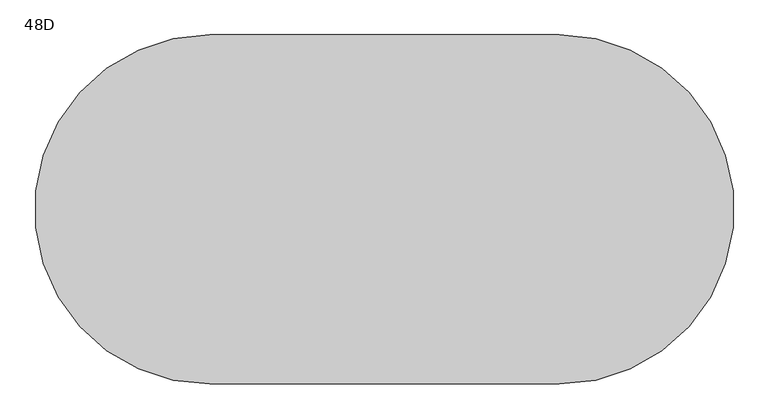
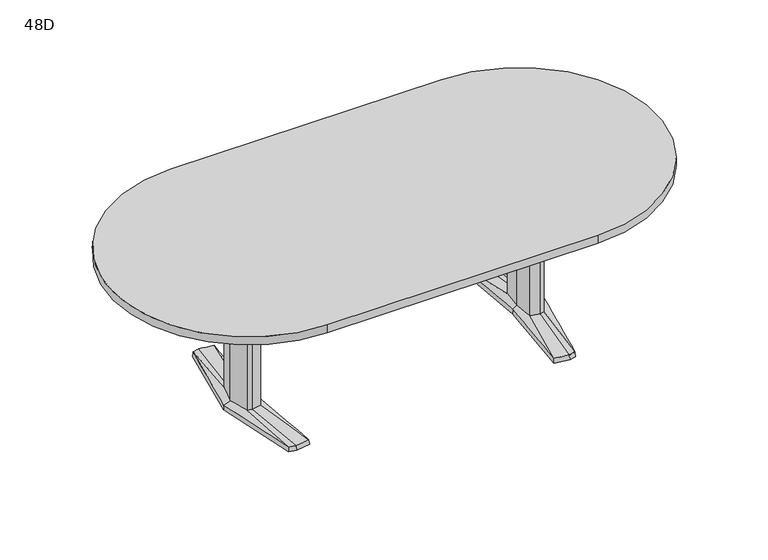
"""IFC4 building model written with IfcOpenShell, lengths in millimetres: furniture geometry, Coalesse_AM_Table_Conference_ETable2_Racetrack_96in_AluminiumBase : 48D."""

import ifcopenshell
import ifcopenshell.guid

model = None  # the IFC model being written
_history = None  # IfcOwnerHistory: only IFC2X3 demands one
_inside = {}  # id of a spatial element -> (the spatial element, [elements in it])
_under = {}  # id of a project, library or spatial element -> (it, [spatial elements below it])
_declared = {}  # id of a project -> (the project, [libraries it declares])
_typed = {}  # id of a type object -> (the type object, [elements of that type])
_made_of = {}  # id of a material, layer set ... -> (it, [elements and type objects made of it])


def new_model(schema):
    """Start an empty IFC model of exactly this schema.

    Asked for "IFC4X3", IfcOpenShell would pick the latest addendum, in which some entities
    have other attributes; the version numbers below select the first issue.
    IFC2X3 requires an IfcOwnerHistory on every rooted entity: one is made here for all.
    """
    global model, _history
    if schema == "IFC4X3":
        model = ifcopenshell.file(schema_version=(4, 3, 0, 0))
    else:
        model = ifcopenshell.file(schema=schema)
    _inside.clear()
    _under.clear()
    _declared.clear()
    _typed.clear()
    _made_of.clear()
    _history = None
    if model.schema == "IFC2X3":
        org = make("IfcOrganization", Name="unknown")
        user = make(
            "IfcPersonAndOrganization",
            ThePerson=make("IfcPerson", FamilyName="unknown"),
            TheOrganization=org,
        )
        app = make(
            "IfcApplication",
            ApplicationDeveloper=org,
            Version="unknown",
            ApplicationFullName="unknown",
            ApplicationIdentifier="unknown",
        )
        _history = make(
            "IfcOwnerHistory",
            OwningUser=user,
            OwningApplication=app,
            ChangeAction="ADDED",
            CreationDate=0,
        )
    return model


def make(cls, **values):
    """One entity of the class cls with the attributes given. An attribute that is None is left unset."""
    return model.create_entity(
        cls, **{name: value for name, value in values.items() if value is not None}
    )


def rooted(cls, **values):
    """An entity with a GlobalId (a new one), such as an element, a storey or a relation."""
    return make(cls, GlobalId=ifcopenshell.guid.new(), OwnerHistory=_history, **values)


def si_unit(unit_type, name, prefix=None):
    """IfcSIUnit, for example si_unit("LENGTHUNIT", "METRE", prefix="MILLI")."""
    return make("IfcSIUnit", UnitType=unit_type, Prefix=prefix, Name=name)


def assignment(units):
    """IfcUnitAssignment: the units of a project."""
    return None if units is None else make("IfcUnitAssignment", Units=units)


def point(xyz):
    """IfcCartesianPoint."""
    return None if xyz is None else make("IfcCartesianPoint", Coordinates=xyz)


def direction(xyz):
    """IfcDirection."""
    return None if xyz is None else make("IfcDirection", DirectionRatios=xyz)


def frame(location, z_axis=None, x_axis=None):
    """IfcAxis2Placement3D, a coordinate frame: its origin and axes. An axis left out is left unset."""
    return make(
        "IfcAxis2Placement3D",
        Location=point(location),
        Axis=direction(z_axis),
        RefDirection=direction(x_axis),
    )


def frame_2d(location, x_axis=None):
    """IfcAxis2Placement2D, a coordinate frame in the plane: its origin and x axis."""
    return make(
        "IfcAxis2Placement2D", Location=point(location), RefDirection=direction(x_axis)
    )


def origin():
    """The frame at (0, 0, 0) with its axes left unset."""
    return frame((0.0, 0.0, 0.0))


def place(relative_to, where):
    """IfcLocalPlacement: puts the frame where relative to a parent placement (None: the world)."""
    return make(
        "IfcLocalPlacement", PlacementRelTo=relative_to, RelativePlacement=where
    )


def context(
    kind, dimensions, precision=None, world=None, true_north=None, identifier=None
):
    """IfcGeometricRepresentationContext, for example the 3D "Model" context."""
    return make(
        "IfcGeometricRepresentationContext",
        ContextIdentifier=identifier,
        ContextType=kind,
        CoordinateSpaceDimension=dimensions,
        Precision=precision,
        WorldCoordinateSystem=world,
        TrueNorth=true_north,
    )


def project(units=None, contexts=None):
    """IfcProject with its units and contexts."""
    return rooted(
        "IfcProject",
        Name="project",
        RepresentationContexts=contexts,
        UnitsInContext=assignment(units),
    )


def spatial(cls, under=None, at=None, **own):
    """A site, building, storey or space (cls), placed at a placement, below another one or the project."""
    s = rooted(cls, ObjectPlacement=at, **own)
    if under is not None:
        _under.setdefault(under.id(), (under, []))[1].append(s)
    return s


def polyline(points):
    """IfcPolyline through the points."""
    return make("IfcPolyline", Points=[point(p) for p in points])


def circle_curve(where, radius):
    """IfcCircle in the frame where."""
    return make("IfcCircle", Position=where, Radius=radius)


def trimmed(basis, trim1, trim2, sense, master):
    """IfcTrimmedCurve: the piece of a basis curve between two trims."""
    return make(
        "IfcTrimmedCurve",
        BasisCurve=basis,
        Trim1=trim1,
        Trim2=trim2,
        SenseAgreement=sense,
        MasterRepresentation=master,
    )


def segment(curve, same_sense, transition):
    """IfcCompositeCurveSegment."""
    return make(
        "IfcCompositeCurveSegment",
        Transition=transition,
        SameSense=same_sense,
        ParentCurve=curve,
    )


def composite_curve(segments, self_intersect=None):
    """IfcCompositeCurve: segments joined end to end."""
    return make("IfcCompositeCurve", Segments=segments, SelfIntersect=self_intersect)


def outline(outer, holes=None, kind="AREA"):
    """IfcArbitraryClosedProfileDef: a profile drawn as a closed curve; with holes, ...WithVoids."""
    if holes is None:
        return make("IfcArbitraryClosedProfileDef", ProfileType=kind, OuterCurve=outer)
    return make(
        "IfcArbitraryProfileDefWithVoids",
        ProfileType=kind,
        OuterCurve=outer,
        InnerCurves=holes,
    )


def extrude(swept, where, along, depth):
    """IfcExtrudedAreaSolid: the profile swept, set in the frame where, extruded along a direction by depth."""
    return make(
        "IfcExtrudedAreaSolid",
        SweptArea=swept,
        Position=where,
        ExtrudedDirection=direction(along),
        Depth=depth,
    )


def shape(context_of_items, identifier, shape_type, items):
    """IfcShapeRepresentation: the items that make up one representation, for example the "Body"."""
    return make(
        "IfcShapeRepresentation",
        ContextOfItems=context_of_items,
        RepresentationIdentifier=identifier,
        RepresentationType=shape_type,
        Items=items,
    )


def source(mapping_origin, context_of_items, identifier, shape_type, items):
    """IfcRepresentationMap: a shape defined once, which mapped items show again and again."""
    return make(
        "IfcRepresentationMap",
        MappingOrigin=mapping_origin,
        MappedRepresentation=shape(context_of_items, identifier, shape_type, items),
    )


def transform(
    local_origin,
    x_axis=None,
    y_axis=None,
    z_axis=None,
    scale=None,
    scale2=None,
    scale3=None,
    uniform=True,
):
    """IfcCartesianTransformationOperator3D, or its non-uniform kind. x_axis, y_axis, z_axis: its Axis1, 2, 3."""
    if uniform:
        return make(
            "IfcCartesianTransformationOperator3D",
            Axis1=direction(x_axis),
            Axis2=direction(y_axis),
            LocalOrigin=point(local_origin),
            Scale=scale,
            Axis3=direction(z_axis),
        )
    return make(
        "IfcCartesianTransformationOperator3DnonUniform",
        Axis1=direction(x_axis),
        Axis2=direction(y_axis),
        LocalOrigin=point(local_origin),
        Scale=scale,
        Axis3=direction(z_axis),
        Scale2=scale2,
        Scale3=scale3,
    )


def mapped(mapping_source, mapping_target):
    """IfcMappedItem: shows the shape of a source again, moved by a transform."""
    return make(
        "IfcMappedItem", MappingSource=mapping_source, MappingTarget=mapping_target
    )


def made_of(thing, what):
    """Note that an element or type object is made of a material, layer set ...; save() writes the relation."""
    if what is not None:
        _made_of.setdefault(what.id(), (what, []))[1].append(thing)
    return thing


def element(
    cls,
    number,
    at=None,
    inside=None,
    cuts=None,
    type_object=None,
    material=None,
    context=None,
    identifier="Body",
    shape_type=None,
    held_by="IfcProductDefinitionShape",
    body=None,
    shapes=None,
    **own,
):
    """One element of the class cls, such as IfcWall. Its Tag is "e" and its number.

    at: its placement. inside: the storey or other place that contains it. cuts: it is an
    opening in that element (IfcRelVoidsElement). A single representation is given by context,
    identifier, shape_type and body (its items); several are given by shapes. held_by: the class
    of the entity that holds the representations. save() writes the other relations.
    """
    e = rooted(cls, Tag="e%d" % number, ObjectPlacement=at, **own)
    if body is not None:
        shapes = [shape(context, identifier, shape_type, body)]
    if shapes is not None:
        e.Representation = make(held_by, Representations=shapes)
    if inside is not None:
        _inside.setdefault(inside.id(), (inside, []))[1].append(e)
    if cuts is not None:
        rooted(
            "IfcRelVoidsElement", RelatingBuildingElement=cuts, RelatedOpeningElement=e
        )
    if type_object is not None:
        _typed.setdefault(type_object.id(), (type_object, []))[1].append(e)
    return made_of(e, material)


def aggregate(whole, parts):
    """IfcRelAggregates: a whole, such as a stair, and the parts it consists of."""
    return rooted("IfcRelAggregates", RelatingObject=whole, RelatedObjects=parts)


def save(model, path):
    """Write the relations noted so far, then the file.

    IfcRelAggregates (storeys below a building ...), IfcRelContainedInSpatialStructure (elements
    in a storey), IfcRelDefinesByType, IfcRelAssociatesMaterial and IfcRelDeclares: one each for
    every whole, place, type object, material and project.
    """
    for whole, parts in _under.values():
        aggregate(whole, parts)
    for where, things in _inside.values():
        rooted(
            "IfcRelContainedInSpatialStructure",
            RelatedElements=things,
            RelatingStructure=where,
        )
    for kind, things in _typed.values():
        rooted("IfcRelDefinesByType", RelatedObjects=things, RelatingType=kind)
    for what, things in _made_of.values():
        rooted("IfcRelAssociatesMaterial", RelatedObjects=things, RelatingMaterial=what)
    for by, libraries in _declared.values():
        rooted("IfcRelDeclares", RelatingContext=by, RelatedDefinitions=libraries)
    model.write(path)


def plane_surface(at):
    """IfcPlane: the flat surface through the origin of the frame at, square to its z axis."""
    return make("IfcPlane", Position=at)


def spline_surface(u_degree, v_degree, points, u_multiplicities, v_multiplicities, u_knots, v_knots, weights=None):
    """IfcBSplineSurfaceWithKnots; with weights, IfcRationalBSplineSurfaceWithKnots. points: one row for each step in u."""
    own = dict(
        UDegree=u_degree,
        VDegree=v_degree,
        ControlPointsList=[[point(p) for p in row] for row in points],
        SurfaceForm="UNSPECIFIED",
        UClosed=False,
        VClosed=False,
        SelfIntersect=False,
        UMultiplicities=u_multiplicities,
        VMultiplicities=v_multiplicities,
        UKnots=u_knots,
        VKnots=v_knots,
        KnotSpec="UNSPECIFIED",
    )
    if weights is None:
        return make("IfcBSplineSurfaceWithKnots", **own)
    return make("IfcRationalBSplineSurfaceWithKnots", WeightsData=weights, **own)


def advanced_brep(points, edges, surfaces, faces):
    """IfcAdvancedBrep: a solid bounded by faces that lie on surfaces and meet in shared edges.

    An edge is (start, end): straight between two places in points (the first is 0);
    or (start, end, curve); or (start, end, curve, False) where it runs against its curve.
    A face is (place in surfaces, loops), or (place, loops, False) where it looks against
    its surface's normal. A loop lists edges by number (the first is 1), with a minus sign
    where the edge is run from its end to its start. The first loop is the outer one.
    """
    corners = [point(p) for p in points]
    vertices = [make("IfcVertexPoint", VertexGeometry=c) for c in corners]
    made = []
    for start, end, *more in edges:
        made.append(
            make(
                "IfcEdgeCurve",
                EdgeStart=vertices[start],
                EdgeEnd=vertices[end],
                EdgeGeometry=more[0] if more else make("IfcPolyline", Points=[corners[start], corners[end]]),
                SameSense=more[1] if len(more) > 1 else True,
            )
        )
    hull = []
    for where, loops, *sense in faces:
        bounds = []
        for j, loop in enumerate(loops):
            ring = [make("IfcOrientedEdge", EdgeElement=made[abs(k) - 1], Orientation=k > 0) for k in loop]
            bounds.append(
                make(
                    "IfcFaceOuterBound" if j == 0 else "IfcFaceBound",
                    Bound=make("IfcEdgeLoop", EdgeList=ring),
                    Orientation=True,
                )
            )
        hull.append(make("IfcAdvancedFace", Bounds=bounds, FaceSurface=surfaces[where], SameSense=sense[0] if sense else True))
    return make("IfcAdvancedBrep", Outer=make("IfcClosedShell", CfsFaces=hull))


def furniture_48d_8a235267(model_context):
    return source(origin(), model_context, "Body", "SolidModel", [
        advanced_brep(
        [(614.8503471, -379.3768856, 25.4), (644.5756636, -371.5332654, 25.4), (668.2327243, -89.293702, 36.5125), (648.9795254, -94.605478, 36.5125), (606.0521001, -87.0529327, 36.5125), (551.7612538, -368.5071562, 25.4), (597.9364207, 0.0, 36.5125), (579.8389754, 0.3970149, 25.4), (606.0521001, 87.0529327, 36.5125), (551.7615002, 368.5172593, 25.4), (648.9795254, 94.605478, 36.5125), (614.8502233, 379.3769183, 25.4), (668.2327243, 89.293702, 36.5125), (644.7535458, 371.4863276, 25.4), (692.1595251, 0.0, 36.5125), (721.4851663, 0.0003516, 25.4), (578.2468742, 0.3968871, 3.175), (550.06875, 369.8367279, 3.175), (614.9213004, 381.0, 3.175), (646.1093245, 372.7704151, 3.175), (723.10625, 0.0, 3.175), (645.9309817, -372.8174744, 3.175), (614.9213004, -381.0, 3.175), (550.06875, -369.8264415, 3.175), (649.5979264, 107.6121478, 3.175), (594.3065451, 97.8843184, 3.175), (585.1810887, 0.0, 3.175), (594.3065451, -97.8843184, 3.175), (649.5979264, -107.6121478, 3.175), (678.6183473, -99.6056872, 3.175), (705.3083085, 0.0, 3.175), (678.6183473, 99.6056872, 3.175), (613.4286812, 346.9152841, 3.175), (557.7811371, 337.3364985, 3.175), (560.1889918, 324.8641942, 3.175), (612.8600644, 333.9306305, 3.175), (648.6725609, 324.4807859, 3.175), (647.5544526, 337.9105158, 3.175), (613.4286812, -346.9152841, 3.175), (647.5544526, -337.9105158, 3.175), (648.6725609, -324.4807859, 3.175), (612.8600644, -333.9306305, 3.175), (560.1889918, -324.8641942, 3.175), (557.7811371, -337.3364985, 3.175), (649.5979264, 107.6121478, 0.0), (678.6183473, 99.6056872, 0.0), (705.3083085, 0.0, 0.0), (678.6183473, -99.6056872, 0.0), (649.5979264, -107.6121478, 0.0), (594.3065451, -97.8843184, 0.0), (585.1810887, 0.0, 0.0), (594.3065451, 97.8843184, 0.0), (613.4286812, 346.9152841, 0.0), (647.5544526, 337.9105158, 0.0), (648.6725609, 324.4807859, 0.0), (612.8600644, 333.9306305, 0.0), (560.1889918, 324.8641942, 0.0), (557.7811371, 337.3364985, 0.0), (613.4286812, -346.9152841, 0.0), (557.7811371, -337.3364985, 0.0), (560.1889918, -324.8641942, 0.0), (612.8600644, -333.9306305, 0.0), (648.6725609, -324.4807859, 0.0), (647.5544526, -337.9105158, 0.0), (668.2327243, 89.293702, 698.5), (648.9795254, 94.605478, 698.5), (606.0521001, 87.0529327, 698.5), (597.9364207, 0.0, 698.5), (606.0521001, -87.0529327, 698.5), (648.9795254, -94.605478, 698.5), (668.2327243, -89.293702, 698.5), (692.1595251, 0.0, 698.5)],
        [
            (0, 1),
            (1, 2),
            (2, 3),
            (3, 0),
            (3, 4),
            (4, 5),
            (5, 0),
            (4, 6),
            (6, 7),
            (7, 5),
            (6, 8),
            (8, 9),
            (9, 7),
            (8, 10),
            (10, 11),
            (11, 9),
            (10, 12),
            (12, 13),
            (13, 11),
            (12, 14),
            (14, 15),
            (15, 13),
            (1, 15),
            (14, 2),
            (16, 17),
            (17, 18),
            (18, 19),
            (19, 20),
            (20, 21),
            (21, 22),
            (22, 23),
            (23, 16),
            (24, 25),
            (25, 26),
            (26, 27),
            (27, 28),
            (28, 29),
            (29, 30),
            (30, 31),
            (31, 24),
            (32, 33),
            (33, 34),
            (34, 35),
            (35, 36),
            (36, 37),
            (37, 32),
            (38, 39),
            (39, 40),
            (40, 41),
            (41, 42),
            (42, 43),
            (43, 38),
            (16, 7),
            (9, 17),
            (11, 18),
            (13, 19),
            (15, 20),
            (1, 21),
            (0, 22),
            (5, 23),
            (44, 45),
            (45, 46),
            (46, 47),
            (47, 48),
            (48, 49),
            (49, 50),
            (50, 51),
            (51, 44),
            (52, 53),
            (53, 54),
            (54, 55),
            (55, 56),
            (56, 57),
            (57, 52),
            (58, 59),
            (59, 60),
            (60, 61),
            (61, 62),
            (62, 63),
            (63, 58),
            (44, 24),
            (31, 45),
            (30, 46),
            (29, 47),
            (28, 48),
            (27, 49),
            (26, 50),
            (25, 51),
            (52, 32),
            (37, 53),
            (36, 54),
            (35, 55),
            (34, 56),
            (33, 57),
            (58, 38),
            (43, 59),
            (42, 60),
            (41, 61),
            (40, 62),
            (39, 63),
            (64, 65),
            (65, 66),
            (66, 67),
            (67, 68),
            (68, 69),
            (69, 70),
            (70, 71),
            (71, 64),
            (71, 14),
            (12, 64),
            (70, 2),
            (69, 3),
            (68, 4),
            (67, 6),
            (66, 8),
            (65, 10),
        ],
        [
            spline_surface(1, 1, [[(644.5756636, -371.5332654, 25.4), (614.8503471, -379.3768856, 25.4)], [(668.2327243, -89.293702, 36.5125), (648.9795254, -94.605478, 36.5125)]], [2, 2], [2, 2], [0.0, 1.0], [0.0, 1.0]),
            spline_surface(1, 1, [[(614.8503471, -379.3768856, 25.4), (551.7612538, -368.5071562, 25.4)], [(648.9795254, -94.605478, 36.5125), (606.0521001, -87.0529327, 36.5125)]], [2, 2], [2, 2], [0.0, 1.0], [0.0, 1.0]),
            spline_surface(1, 1, [[(551.7612538, -368.5071562, 25.4), (579.8389754, 0.3970149, 25.4)], [(606.0521001, -87.0529327, 36.5125), (597.9364207, 0.0, 36.5125)]], [2, 2], [2, 2], [0.0, 1.0], [0.0, 1.0]),
            spline_surface(1, 1, [[(579.8389754, 0.3970149, 25.4), (551.7615002, 368.5172593, 25.4)], [(597.9364207, 0.0, 36.5125), (606.0521001, 87.0529327, 36.5125)]], [2, 2], [2, 2], [0.0, 1.0], [0.0, 1.0]),
            spline_surface(1, 1, [[(551.7615002, 368.5172593, 25.4), (614.8502233, 379.3769183, 25.4)], [(606.0521001, 87.0529327, 36.5125), (648.9795254, 94.605478, 36.5125)]], [2, 2], [2, 2], [0.0, 1.0], [0.0, 1.0]),
            spline_surface(1, 1, [[(614.8502233, 379.3769183, 25.4), (644.7535458, 371.4863276, 25.4)], [(648.9795254, 94.605478, 36.5125), (668.2327243, 89.293702, 36.5125)]], [2, 2], [2, 2], [0.0, 1.0], [0.0, 1.0]),
            spline_surface(1, 1, [[(644.7535458, 371.4863276, 25.4), (721.4851663, 0.0003516, 25.4)], [(668.2327243, 89.293702, 36.5125), (692.1595251, 0.0, 36.5125)]], [2, 2], [2, 2], [0.0, 1.0], [0.0, 1.0]),
            spline_surface(1, 1, [[(721.4851663, 0.0003516, 25.4), (644.5756636, -371.5332654, 25.4)], [(692.1595251, 0.0, 36.5125), (668.2327243, -89.293702, 36.5125)]], [2, 2], [2, 2], [0.0, 1.0], [0.0, 1.0]),
            plane_surface(frame((615.4216914, 0.0450143, 3.175), z_axis=(0.0, 0.0, -1.0), x_axis=(-0.9669048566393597, -0.2551372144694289, 0.0))),
            plane_surface(frame((564.1578121, 185.1168075, 3.175), z_axis=(-0.9945699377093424, -0.07585840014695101, 0.0712470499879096), x_axis=(-0.07605167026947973, 0.9971038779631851, 0.0))),
            plane_surface(frame((582.4950252, 375.418364, 3.175), z_axis=(-0.1692071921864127, 0.9830019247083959, 0.07124704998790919), x_axis=(0.985506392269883, 0.16963829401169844, 0.0))),
            plane_surface(frame((630.5153124, 376.8852076, 3.175), z_axis=(0.2544888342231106, 0.9644476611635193, 0.07124704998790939), x_axis=(0.9669048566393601, -0.25513721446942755, 0.0))),
            plane_surface(frame((684.6077872, 186.3852076, 3.175), z_axis=(0.9768383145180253, 0.2017690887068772, 0.07124704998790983), x_axis=(0.20228315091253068, -0.9793270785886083, 0.0))),
            plane_surface(frame((684.5186158, -186.4087372, 3.175), z_axis=(0.9767507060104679, -0.20219276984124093, 0.07124704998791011), x_axis=(-0.2027079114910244, -0.9792392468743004, 0.0))),
            plane_surface(frame((630.426141, -376.9087372, 3.175), z_axis=(0.2544888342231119, -0.9644476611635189, 0.0712470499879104), x_axis=(-0.9669048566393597, -0.2551372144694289, 0.0))),
            plane_surface(frame((582.4950252, -375.4132207, 3.175), z_axis=(-0.16935861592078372, -0.982975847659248, 0.07124704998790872), x_axis=(-0.9854802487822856, 0.16979010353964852, 0.0))),
            plane_surface(frame((564.1578121, -184.7147772, 3.175), z_axis=(-0.9945820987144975, 0.07569878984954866, 0.07124704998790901), x_axis=(0.07589165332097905, 0.9971160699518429, 0.0))),
            plane_surface(frame((652.3571479, 106.8509046, 0.0), z_axis=(0.0, 0.0, -1.0000000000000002), x_axis=(-0.9639855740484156, 0.26595453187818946, 0.0))),
            plane_surface(frame((649.5979264, 107.6121478, 3.175), z_axis=(0.26595453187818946, 0.9639855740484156, 0.0), x_axis=(0.0, 0.0, -1.0))),
            plane_surface(frame((678.6183473, 99.6056872, 3.175), z_axis=(0.9659241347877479, 0.2588253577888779, 0.0), x_axis=(0.0, 0.0, -1.0))),
            plane_surface(frame((705.3083085, 0.0, 3.175), z_axis=(0.9659241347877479, -0.2588253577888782, 0.0), x_axis=(0.0, 0.0, -1.0))),
            plane_surface(frame((678.6183473, -99.6056872, 3.175), z_axis=(0.26595453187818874, -0.9639855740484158, 0.0), x_axis=(0.0, 0.0, -1.0))),
            plane_surface(frame((649.5979264, -107.6121478, 3.175), z_axis=(-0.17327617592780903, -0.9848732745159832, 0.0), x_axis=(0.0, 0.0, -1.0))),
            plane_surface(frame((594.3065451, -97.8843184, 3.175), z_axis=(-0.9956824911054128, -0.0928244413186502, 0.0), x_axis=(0.0, 0.0, -1.0))),
            plane_surface(frame((585.1810887, 0.0, 3.175), z_axis=(-0.9956824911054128, 0.09282444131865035, 0.0), x_axis=(0.0, 0.0, -1.0))),
            plane_surface(frame((594.3065451, 97.8843184, 3.175), z_axis=(-0.17327617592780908, 0.984873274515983, 0.0), x_axis=(0.0, 0.0, -1.0))),
            plane_surface(frame((613.4286812, 346.9152841, 3.175), z_axis=(0.25513721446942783, 0.9669048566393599, 0.0), x_axis=(0.0, 0.0, -1.0))),
            plane_surface(frame((647.5544526, 337.9105158, 3.175), z_axis=(0.9965521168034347, 0.0829691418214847, 0.0), x_axis=(0.0, 0.0, -1.0))),
            plane_surface(frame((648.6725609, 324.4807859, 3.175), z_axis=(-0.25513721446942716, -0.9669048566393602, 0.0), x_axis=(0.0, 0.0, -1.0))),
            plane_surface(frame((612.8600644, 333.9306305, 3.175), z_axis=(0.16963829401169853, -0.985506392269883, 0.0), x_axis=(0.0, 0.0, -1.0))),
            plane_surface(frame((560.1889918, 324.8641942, 3.175), z_axis=(-0.9818699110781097, -0.18955600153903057, 0.0), x_axis=(0.0, 0.0, -1.0))),
            plane_surface(frame((557.7811371, 337.3364985, 3.175), z_axis=(-0.16963829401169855, 0.9855063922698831, 0.0), x_axis=(0.0, 0.0, -1.0))),
            plane_surface(frame((613.4286812, -346.9152841, 3.175), z_axis=(-0.1696382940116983, -0.9855063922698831, 0.0), x_axis=(0.0, 0.0, -1.0))),
            plane_surface(frame((557.7811371, -337.3364985, 3.175), z_axis=(-0.9818699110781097, 0.18955600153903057, 0.0), x_axis=(0.0, 0.0, -1.0))),
            plane_surface(frame((560.1889918, -324.8641942, 3.175), z_axis=(0.16963829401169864, 0.985506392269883, 0.0), x_axis=(0.0, 0.0, -1.0))),
            plane_surface(frame((612.8600644, -333.9306305, 3.175), z_axis=(-0.2551372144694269, 0.9669048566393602, 0.0), x_axis=(0.0, 0.0, -1.0))),
            plane_surface(frame((648.6725609, -324.4807859, 3.175), z_axis=(0.9965521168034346, -0.0829691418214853, 0.0), x_axis=(0.0, 0.0, -1.0))),
            plane_surface(frame((647.5544526, -337.9105158, 3.175), z_axis=(0.2551372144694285, -0.9669048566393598, 0.0), x_axis=(0.0, 0.0, -1.0))),
            plane_surface(frame((692.1595251, 0.0, 698.5), z_axis=(0.0, 0.0, 1.0), x_axis=(0.25882535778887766, -0.965924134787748, 0.0))),
            plane_surface(frame((668.2327243, 89.293702, 698.5), z_axis=(0.965924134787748, 0.25882535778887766, 0.0), x_axis=(0.0, 0.0, -1.0))),
            plane_surface(frame((692.1595251, 0.0, 698.5), z_axis=(0.965924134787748, -0.2588253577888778, 0.0), x_axis=(0.0, 0.0, -1.0))),
            plane_surface(frame((668.2327243, -89.293702, 698.5), z_axis=(0.2659545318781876, -0.963985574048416, 0.0), x_axis=(0.0, 0.0, -1.0))),
            plane_surface(frame((648.9795254, -94.605478, 698.5), z_axis=(-0.1732761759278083, -0.9848732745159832, 0.0), x_axis=(0.0, 0.0, -1.0))),
            plane_surface(frame((606.0521001, -87.0529327, 698.5), z_axis=(-0.9956824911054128, -0.0928244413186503, 0.0), x_axis=(0.0, 0.0, -1.0))),
            plane_surface(frame((597.9364207, 0.0, 698.5), z_axis=(-0.9956824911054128, 0.09282444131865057, 0.0), x_axis=(0.0, 0.0, -1.0))),
            plane_surface(frame((606.0521001, 87.0529327, 698.5), z_axis=(-0.17327617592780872, 0.9848732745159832, 0.0), x_axis=(0.0, 0.0, -1.0))),
            plane_surface(frame((648.9795254, 94.605478, 698.5), z_axis=(0.26595453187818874, 0.9639855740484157, 0.0), x_axis=(0.0, 0.0, -1.0))),
        ],
        [
            (0, [[1, 2, 3, 4]]),
            (1, [[5, 6, 7, -4]]),
            (2, [[8, 9, 10, -6]]),
            (3, [[11, 12, 13, -9]]),
            (4, [[14, 15, 16, -12]]),
            (5, [[17, 18, 19, -15]]),
            (6, [[20, 21, 22, -18]]),
            (7, [[23, -21, 24, -2]]),
            (8, [[25, 26, 27, 28, 29, 30, 31, 32], [33, 34, 35, 36, 37, 38, 39, 40], [41, 42, 43, 44, 45, 46], [47, 48, 49, 50, 51, 52]]),
            (9, [[53, -13, 54, -25]]),
            (10, [[-54, -16, 55, -26]]),
            (11, [[-55, -19, 56, -27]]),
            (12, [[-56, -22, 57, -28]]),
            (13, [[-57, -23, 58, -29]]),
            (14, [[-58, -1, 59, -30]]),
            (15, [[-59, -7, 60, -31]]),
            (16, [[-60, -10, -53, -32]]),
            (17, [[61, 62, 63, 64, 65, 66, 67, 68]]),
            (17, [[69, 70, 71, 72, 73, 74]]),
            (17, [[75, 76, 77, 78, 79, 80]]),
            (18, [[81, -40, 82, -61]]),
            (19, [[-82, -39, 83, -62]]),
            (20, [[-83, -38, 84, -63]]),
            (21, [[-84, -37, 85, -64]]),
            (22, [[-85, -36, 86, -65]]),
            (23, [[-86, -35, 87, -66]]),
            (24, [[-87, -34, 88, -67]]),
            (25, [[-88, -33, -81, -68]]),
            (26, [[89, -46, 90, -69]]),
            (27, [[-90, -45, 91, -70]]),
            (28, [[-91, -44, 92, -71]]),
            (29, [[-92, -43, 93, -72]]),
            (30, [[-93, -42, 94, -73]]),
            (31, [[-94, -41, -89, -74]]),
            (32, [[95, -52, 96, -75]]),
            (33, [[-96, -51, 97, -76]]),
            (34, [[-97, -50, 98, -77]]),
            (35, [[-98, -49, 99, -78]]),
            (36, [[-99, -48, 100, -79]]),
            (37, [[-100, -47, -95, -80]]),
            (38, [[101, 102, 103, 104, 105, 106, 107, 108]]),
            (39, [[109, -20, 110, -108]]),
            (40, [[111, -24, -109, -107]]),
            (41, [[112, -3, -111, -106]]),
            (42, [[113, -5, -112, -105]]),
            (43, [[114, -8, -113, -104]]),
            (44, [[115, -11, -114, -103]]),
            (45, [[116, -14, -115, -102]]),
            (46, [[-110, -17, -116, -101]]),
        ],
    ),
        advanced_brep(
        [(-614.8503471, -379.3768856, 25.4), (-648.9795254, -94.605478, 36.5125), (-668.2327243, -89.293702, 36.5125), (-644.5756636, -371.5332654, 25.4), (-551.7612538, -368.5071562, 25.4), (-606.0521001, -87.0529327, 36.5125), (-579.8389754, 0.3970149, 25.4), (-597.9364207, 0.0, 36.5125), (-551.7615002, 368.5172593, 25.4), (-606.0521001, 87.0529327, 36.5125), (-614.8502233, 379.3769183, 25.4), (-648.9795254, 94.605478, 36.5125), (-644.7535458, 371.4863276, 25.4), (-668.2327243, 89.293702, 36.5125), (-721.4851663, 0.0003516, 25.4), (-692.1595251, 0.0, 36.5125), (-578.2468742, 0.3968871, 3.175), (-550.06875, -369.8264415, 3.175), (-614.9213004, -381.0, 3.175), (-645.9309817, -372.8174744, 3.175), (-723.10625, 0.0, 3.175), (-646.1093245, 372.7704151, 3.175), (-614.9213004, 381.0, 3.175), (-550.06875, 369.8367279, 3.175), (-649.5979264, 107.6121478, 3.175), (-678.6183473, 99.6056872, 3.175), (-705.3083085, 0.0, 3.175), (-678.6183473, -99.6056872, 3.175), (-649.5979264, -107.6121478, 3.175), (-594.3065451, -97.8843184, 3.175), (-585.1810887, 0.0, 3.175), (-594.3065451, 97.8843184, 3.175), (-613.4286812, 346.9152841, 3.175), (-647.5544526, 337.9105158, 3.175), (-648.6725609, 324.4807859, 3.175), (-612.8600644, 333.9306305, 3.175), (-560.1889918, 324.8641942, 3.175), (-557.7811371, 337.3364985, 3.175), (-613.4286812, -346.9152841, 3.175), (-557.7811371, -337.3364985, 3.175), (-560.1889918, -324.8641942, 3.175), (-612.8600644, -333.9306305, 3.175), (-648.6725609, -324.4807859, 3.175), (-647.5544526, -337.9105158, 3.175), (-649.5979264, 107.6121478, 0.0), (-594.3065451, 97.8843184, 0.0), (-585.1810887, 0.0, 0.0), (-594.3065451, -97.8843184, 0.0), (-649.5979264, -107.6121478, 0.0), (-678.6183473, -99.6056872, 0.0), (-705.3083085, 0.0, 0.0), (-678.6183473, 99.6056872, 0.0), (-613.4286812, 346.9152841, 0.0), (-557.7811371, 337.3364985, 0.0), (-560.1889918, 324.8641942, 0.0), (-612.8600644, 333.9306305, 0.0), (-648.6725609, 324.4807859, 0.0), (-647.5544526, 337.9105158, 0.0), (-613.4286812, -346.9152841, 0.0), (-647.5544526, -337.9105158, 0.0), (-648.6725609, -324.4807859, 0.0), (-612.8600644, -333.9306305, 0.0), (-560.1889918, -324.8641942, 0.0), (-557.7811371, -337.3364985, 0.0), (-668.2327243, 89.293702, 698.5), (-692.1595251, 0.0, 698.5), (-668.2327243, -89.293702, 698.5), (-648.9795254, -94.605478, 698.5), (-606.0521001, -87.0529327, 698.5), (-597.9364207, 0.0, 698.5), (-606.0521001, 87.0529327, 698.5), (-648.9795254, 94.605478, 698.5)],
        [
            (0, 1),
            (1, 2),
            (2, 3),
            (3, 0),
            (0, 4),
            (4, 5),
            (5, 1),
            (4, 6),
            (6, 7),
            (7, 5),
            (6, 8),
            (8, 9),
            (9, 7),
            (8, 10),
            (10, 11),
            (11, 9),
            (10, 12),
            (12, 13),
            (13, 11),
            (12, 14),
            (14, 15),
            (15, 13),
            (2, 15),
            (14, 3),
            (16, 17),
            (17, 18),
            (18, 19),
            (19, 20),
            (20, 21),
            (21, 22),
            (22, 23),
            (23, 16),
            (24, 25),
            (25, 26),
            (26, 27),
            (27, 28),
            (28, 29),
            (29, 30),
            (30, 31),
            (31, 24),
            (32, 33),
            (33, 34),
            (34, 35),
            (35, 36),
            (36, 37),
            (37, 32),
            (38, 39),
            (39, 40),
            (40, 41),
            (41, 42),
            (42, 43),
            (43, 38),
            (23, 8),
            (6, 16),
            (22, 10),
            (21, 12),
            (20, 14),
            (19, 3),
            (18, 0),
            (17, 4),
            (44, 45),
            (45, 46),
            (46, 47),
            (47, 48),
            (48, 49),
            (49, 50),
            (50, 51),
            (51, 44),
            (52, 53),
            (53, 54),
            (54, 55),
            (55, 56),
            (56, 57),
            (57, 52),
            (58, 59),
            (59, 60),
            (60, 61),
            (61, 62),
            (62, 63),
            (63, 58),
            (51, 25),
            (24, 44),
            (50, 26),
            (49, 27),
            (48, 28),
            (47, 29),
            (46, 30),
            (45, 31),
            (57, 33),
            (32, 52),
            (56, 34),
            (55, 35),
            (54, 36),
            (53, 37),
            (63, 39),
            (38, 58),
            (62, 40),
            (61, 41),
            (60, 42),
            (59, 43),
            (64, 65),
            (65, 66),
            (66, 67),
            (67, 68),
            (68, 69),
            (69, 70),
            (70, 71),
            (71, 64),
            (64, 13),
            (15, 65),
            (2, 66),
            (1, 67),
            (5, 68),
            (7, 69),
            (9, 70),
            (11, 71),
        ],
        [
            spline_surface(1, 1, [[(-644.5756636, -371.5332654, 25.4), (-668.2327243, -89.293702, 36.5125)], [(-614.8503471, -379.3768856, 25.4), (-648.9795254, -94.605478, 36.5125)]], [2, 2], [2, 2], [0.0, 1.0], [0.0, 1.0]),
            spline_surface(1, 1, [[(-614.8503471, -379.3768856, 25.4), (-648.9795254, -94.605478, 36.5125)], [(-551.7612538, -368.5071562, 25.4), (-606.0521001, -87.0529327, 36.5125)]], [2, 2], [2, 2], [0.0, 1.0], [0.0, 1.0]),
            spline_surface(1, 1, [[(-551.7612538, -368.5071562, 25.4), (-606.0521001, -87.0529327, 36.5125)], [(-579.8389754, 0.3970149, 25.4), (-597.9364207, 0.0, 36.5125)]], [2, 2], [2, 2], [0.0, 1.0], [0.0, 1.0]),
            spline_surface(1, 1, [[(-579.8389754, 0.3970149, 25.4), (-597.9364207, 0.0, 36.5125)], [(-551.7615002, 368.5172593, 25.4), (-606.0521001, 87.0529327, 36.5125)]], [2, 2], [2, 2], [0.0, 1.0], [0.0, 1.0]),
            spline_surface(1, 1, [[(-551.7615002, 368.5172593, 25.4), (-606.0521001, 87.0529327, 36.5125)], [(-614.8502233, 379.3769183, 25.4), (-648.9795254, 94.605478, 36.5125)]], [2, 2], [2, 2], [0.0, 1.0], [0.0, 1.0]),
            spline_surface(1, 1, [[(-614.8502233, 379.3769183, 25.4), (-648.9795254, 94.605478, 36.5125)], [(-644.7535458, 371.4863276, 25.4), (-668.2327243, 89.293702, 36.5125)]], [2, 2], [2, 2], [0.0, 1.0], [0.0, 1.0]),
            spline_surface(1, 1, [[(-644.7535458, 371.4863276, 25.4), (-668.2327243, 89.293702, 36.5125)], [(-721.4851663, 0.0003516, 25.4), (-692.1595251, 0.0, 36.5125)]], [2, 2], [2, 2], [0.0, 1.0], [0.0, 1.0]),
            spline_surface(1, 1, [[(-721.4851663, 0.0003516, 25.4), (-692.1595251, 0.0, 36.5125)], [(-644.5756636, -371.5332654, 25.4), (-668.2327243, -89.293702, 36.5125)]], [2, 2], [2, 2], [0.0, 1.0], [0.0, 1.0]),
            plane_surface(frame((-615.4216914, 0.0450143, 3.175), z_axis=(0.0, 0.0, -1.0), x_axis=(0.9669048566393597, -0.2551372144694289, 0.0))),
            plane_surface(frame((-564.1578121, 185.1168075, 3.175), z_axis=(0.9945699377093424, -0.07585840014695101, 0.0712470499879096), x_axis=(0.07605167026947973, 0.9971038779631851, 0.0))),
            plane_surface(frame((-582.4950252, 375.418364, 3.175), z_axis=(0.1692071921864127, 0.9830019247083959, 0.07124704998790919), x_axis=(-0.985506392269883, 0.16963829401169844, 0.0))),
            plane_surface(frame((-630.5153124, 376.8852076, 3.175), z_axis=(-0.2544888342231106, 0.9644476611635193, 0.07124704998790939), x_axis=(-0.9669048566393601, -0.25513721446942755, 0.0))),
            plane_surface(frame((-684.6077872, 186.3852076, 3.175), z_axis=(-0.9768383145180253, 0.2017690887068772, 0.07124704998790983), x_axis=(-0.20228315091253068, -0.9793270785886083, 0.0))),
            plane_surface(frame((-684.5186158, -186.4087372, 3.175), z_axis=(-0.9767507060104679, -0.20219276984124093, 0.07124704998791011), x_axis=(0.2027079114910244, -0.9792392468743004, 0.0))),
            plane_surface(frame((-630.426141, -376.9087372, 3.175), z_axis=(-0.2544888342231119, -0.9644476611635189, 0.0712470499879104), x_axis=(0.9669048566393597, -0.2551372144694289, 0.0))),
            plane_surface(frame((-582.4950252, -375.4132207, 3.175), z_axis=(0.16935861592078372, -0.982975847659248, 0.07124704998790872), x_axis=(0.9854802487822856, 0.16979010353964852, 0.0))),
            plane_surface(frame((-564.1578121, -184.7147772, 3.175), z_axis=(0.9945820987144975, 0.07569878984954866, 0.07124704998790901), x_axis=(-0.07589165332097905, 0.9971160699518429, 0.0))),
            plane_surface(frame((-652.3571479, 106.8509046, 0.0), z_axis=(0.0, 0.0, -1.0000000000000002), x_axis=(0.9639855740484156, 0.26595453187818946, 0.0))),
            plane_surface(frame((-649.5979264, 107.6121478, 3.175), z_axis=(-0.26595453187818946, 0.9639855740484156, 0.0), x_axis=(0.0, 0.0, -1.0))),
            plane_surface(frame((-678.6183473, 99.6056872, 3.175), z_axis=(-0.9659241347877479, 0.2588253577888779, 0.0), x_axis=(0.0, 0.0, -1.0))),
            plane_surface(frame((-705.3083085, 0.0, 3.175), z_axis=(-0.9659241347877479, -0.2588253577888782, 0.0), x_axis=(0.0, 0.0, -1.0))),
            plane_surface(frame((-678.6183473, -99.6056872, 3.175), z_axis=(-0.26595453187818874, -0.9639855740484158, 0.0), x_axis=(0.0, 0.0, -1.0))),
            plane_surface(frame((-649.5979264, -107.6121478, 3.175), z_axis=(0.17327617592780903, -0.9848732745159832, 0.0), x_axis=(0.0, 0.0, -1.0))),
            plane_surface(frame((-594.3065451, -97.8843184, 3.175), z_axis=(0.9956824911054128, -0.0928244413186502, 0.0), x_axis=(0.0, 0.0, -1.0))),
            plane_surface(frame((-585.1810887, 0.0, 3.175), z_axis=(0.9956824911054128, 0.09282444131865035, 0.0), x_axis=(0.0, 0.0, -1.0))),
            plane_surface(frame((-594.3065451, 97.8843184, 3.175), z_axis=(0.17327617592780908, 0.984873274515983, 0.0), x_axis=(0.0, 0.0, -1.0))),
            plane_surface(frame((-613.4286812, 346.9152841, 3.175), z_axis=(-0.25513721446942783, 0.9669048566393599, 0.0), x_axis=(0.0, 0.0, -1.0))),
            plane_surface(frame((-647.5544526, 337.9105158, 3.175), z_axis=(-0.9965521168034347, 0.0829691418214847, 0.0), x_axis=(0.0, 0.0, -1.0))),
            plane_surface(frame((-648.6725609, 324.4807859, 3.175), z_axis=(0.25513721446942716, -0.9669048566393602, 0.0), x_axis=(0.0, 0.0, -1.0))),
            plane_surface(frame((-612.8600644, 333.9306305, 3.175), z_axis=(-0.16963829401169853, -0.985506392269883, 0.0), x_axis=(0.0, 0.0, -1.0))),
            plane_surface(frame((-560.1889918, 324.8641942, 3.175), z_axis=(0.9818699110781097, -0.18955600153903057, 0.0), x_axis=(0.0, 0.0, -1.0))),
            plane_surface(frame((-557.7811371, 337.3364985, 3.175), z_axis=(0.16963829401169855, 0.9855063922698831, 0.0), x_axis=(0.0, 0.0, -1.0))),
            plane_surface(frame((-613.4286812, -346.9152841, 3.175), z_axis=(0.1696382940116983, -0.9855063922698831, 0.0), x_axis=(0.0, 0.0, -1.0))),
            plane_surface(frame((-557.7811371, -337.3364985, 3.175), z_axis=(0.9818699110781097, 0.18955600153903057, 0.0), x_axis=(0.0, 0.0, -1.0))),
            plane_surface(frame((-560.1889918, -324.8641942, 3.175), z_axis=(-0.16963829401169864, 0.985506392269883, 0.0), x_axis=(0.0, 0.0, -1.0))),
            plane_surface(frame((-612.8600644, -333.9306305, 3.175), z_axis=(0.2551372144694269, 0.9669048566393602, 0.0), x_axis=(0.0, 0.0, -1.0))),
            plane_surface(frame((-648.6725609, -324.4807859, 3.175), z_axis=(-0.9965521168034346, -0.0829691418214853, 0.0), x_axis=(0.0, 0.0, -1.0))),
            plane_surface(frame((-647.5544526, -337.9105158, 3.175), z_axis=(-0.2551372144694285, -0.9669048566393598, 0.0), x_axis=(0.0, 0.0, -1.0))),
            plane_surface(frame((-692.1595251, 0.0, 698.5), z_axis=(0.0, 0.0, 1.0), x_axis=(-0.25882535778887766, -0.965924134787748, 0.0))),
            plane_surface(frame((-668.2327243, 89.293702, 698.5), z_axis=(-0.965924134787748, 0.25882535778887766, 0.0), x_axis=(0.0, 0.0, -1.0))),
            plane_surface(frame((-692.1595251, 0.0, 698.5), z_axis=(-0.965924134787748, -0.2588253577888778, 0.0), x_axis=(0.0, 0.0, -1.0))),
            plane_surface(frame((-668.2327243, -89.293702, 698.5), z_axis=(-0.2659545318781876, -0.963985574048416, 0.0), x_axis=(0.0, 0.0, -1.0))),
            plane_surface(frame((-648.9795254, -94.605478, 698.5), z_axis=(0.1732761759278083, -0.9848732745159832, 0.0), x_axis=(0.0, 0.0, -1.0))),
            plane_surface(frame((-606.0521001, -87.0529327, 698.5), z_axis=(0.9956824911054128, -0.0928244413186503, 0.0), x_axis=(0.0, 0.0, -1.0))),
            plane_surface(frame((-597.9364207, 0.0, 698.5), z_axis=(0.9956824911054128, 0.09282444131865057, 0.0), x_axis=(0.0, 0.0, -1.0))),
            plane_surface(frame((-606.0521001, 87.0529327, 698.5), z_axis=(0.17327617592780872, 0.9848732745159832, 0.0), x_axis=(0.0, 0.0, -1.0))),
            plane_surface(frame((-648.9795254, 94.605478, 698.5), z_axis=(-0.26595453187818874, 0.9639855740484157, 0.0), x_axis=(0.0, 0.0, -1.0))),
        ],
        [
            (0, [[1, 2, 3, 4]]),
            (1, [[-1, 5, 6, 7]]),
            (2, [[-6, 8, 9, 10]]),
            (3, [[-9, 11, 12, 13]]),
            (4, [[-12, 14, 15, 16]]),
            (5, [[-15, 17, 18, 19]]),
            (6, [[-18, 20, 21, 22]]),
            (7, [[-3, 23, -21, 24]]),
            (8, [[25, 26, 27, 28, 29, 30, 31, 32], [33, 34, 35, 36, 37, 38, 39, 40], [41, 42, 43, 44, 45, 46], [47, 48, 49, 50, 51, 52]]),
            (9, [[-32, 53, -11, 54]]),
            (10, [[-31, 55, -14, -53]]),
            (11, [[-30, 56, -17, -55]]),
            (12, [[-29, 57, -20, -56]]),
            (13, [[-28, 58, -24, -57]]),
            (14, [[-27, 59, -4, -58]]),
            (15, [[-26, 60, -5, -59]]),
            (16, [[-25, -54, -8, -60]]),
            (17, [[61, 62, 63, 64, 65, 66, 67, 68]]),
            (17, [[69, 70, 71, 72, 73, 74]]),
            (17, [[75, 76, 77, 78, 79, 80]]),
            (18, [[-68, 81, -33, 82]]),
            (19, [[-67, 83, -34, -81]]),
            (20, [[-66, 84, -35, -83]]),
            (21, [[-65, 85, -36, -84]]),
            (22, [[-64, 86, -37, -85]]),
            (23, [[-63, 87, -38, -86]]),
            (24, [[-62, 88, -39, -87]]),
            (25, [[-61, -82, -40, -88]]),
            (26, [[-74, 89, -41, 90]]),
            (27, [[-73, 91, -42, -89]]),
            (28, [[-72, 92, -43, -91]]),
            (29, [[-71, 93, -44, -92]]),
            (30, [[-70, 94, -45, -93]]),
            (31, [[-69, -90, -46, -94]]),
            (32, [[-80, 95, -47, 96]]),
            (33, [[-79, 97, -48, -95]]),
            (34, [[-78, 98, -49, -97]]),
            (35, [[-77, 99, -50, -98]]),
            (36, [[-76, 100, -51, -99]]),
            (37, [[-75, -96, -52, -100]]),
            (38, [[101, 102, 103, 104, 105, 106, 107, 108]]),
            (39, [[-101, 109, -22, 110]]),
            (40, [[-102, -110, -23, 111]]),
            (41, [[-103, -111, -2, 112]]),
            (42, [[-104, -112, -7, 113]]),
            (43, [[-105, -113, -10, 114]]),
            (44, [[-106, -114, -13, 115]]),
            (45, [[-107, -115, -16, 116]]),
            (46, [[-108, -116, -19, -109]]),
        ],
    ),
        extrude(outline(polyline([(96.8375, 698.5), (103.1875, 698.5), (103.1875, 476.25), (-103.1875, 476.25), (-103.1875, 698.5), (-96.8375, 698.5), (-96.8375, 482.6), (96.8375, 482.6), (96.8375, 698.5)])), frame((-597.9364207, 0.0, 0.0), z_axis=(1.0, 0.0, 0.0), x_axis=(0.0, 1.0, 0.0)), (0.0, 0.0, 1.0), 1195.8728415),
        extrude(outline(composite_curve([segment(trimmed(circle_curve(frame_2d((609.6, 0.0)), 609.6), [point((609.6, 609.6))], [point((609.6, -609.6))], False, "CARTESIAN"), True, "CONTINUOUS"), segment(polyline([(609.6, -609.6), (-609.6, -609.6)]), True, "CONTINUOUS"), segment(trimmed(circle_curve(frame_2d((-609.6, 0.0)), 609.6), [point((-609.6, -609.6))], [point((-609.6, 609.6))], False, "CARTESIAN"), True, "CONTINUOUS"), segment(polyline([(-609.6, 609.6), (609.6, 609.6)]), True, "CONTINUOUS")], self_intersect=False)), frame((0.0, 0.0, 698.5), z_axis=(0.0, 0.0, 1.0), x_axis=(1.0, 0.0, 0.0)), (0.0, 0.0, 1.0), 38.1),
    ])


if __name__ == "__main__":
    model = new_model("IFC4")
    model_context = context("Model", 3, world=origin())
    ifc_project = project(units=[si_unit("LENGTHUNIT", "METRE", prefix="MILLI")], contexts=[model_context])
    site = spatial("IfcSite", under=ifc_project)
    building = spatial("IfcBuilding", under=site)
    placement = place(None, origin())
    furniture_48d_shape = furniture_48d_8a235267(model_context)
    element("IfcFurniture", 1, ObjectType="Coalesse_AM_Table_Conference_ETable2_Racetrack_96in_AluminiumBase : 48D", at=placement, inside=building, context=model_context, shape_type="MappedRepresentation", body=[
        mapped(furniture_48d_shape, transform((0.0, 0.0, 0.0), x_axis=(1.0, 0.0, 0.0), y_axis=(0.0, 1.0, 0.0), z_axis=(0.0, 0.0, 1.0))),
    ])
    save(model, "model.ifc")
